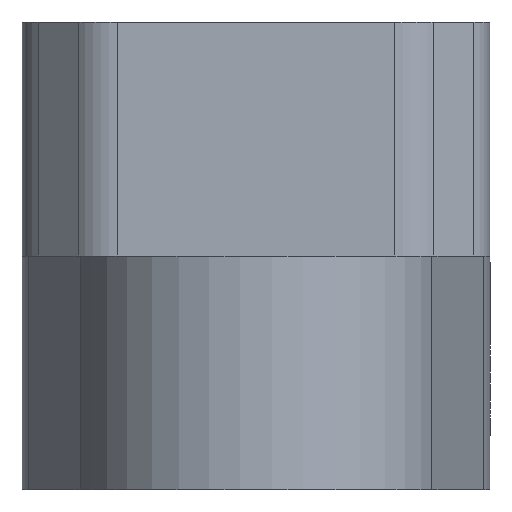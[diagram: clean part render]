
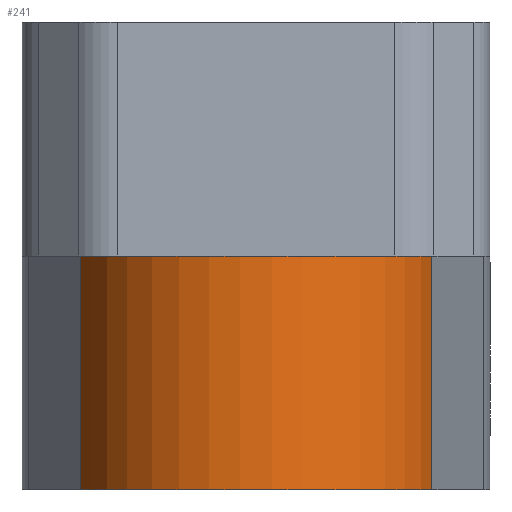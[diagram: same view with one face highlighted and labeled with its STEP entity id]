
A CAD part, left-side view. The second image highlights one B-rep face of the part: STEP entity #241.
In plain terms, the highlighted cylindrical face has radius 10 mm (diameter 20 mm), a partial arc.
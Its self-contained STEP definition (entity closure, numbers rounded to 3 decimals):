
#3 = DIRECTION ( 'NONE',  ( -1., 0., 0. ) ) ;
#21 = VERTEX_POINT ( 'NONE', #1379 ) ;
#72 = LINE ( 'NONE', #1370, #1553 ) ;
#145 = CYLINDRICAL_SURFACE ( 'NONE', #719, 10. ) ;
#146 = DIRECTION ( 'NONE',  ( 0., 0., -1. ) ) ;
#192 = ORIENTED_EDGE ( 'NONE', *, *, #1334, .T. ) ;
#206 = DIRECTION ( 'NONE',  ( 0., 0., -1. ) ) ;
#241 = ADVANCED_FACE ( 'NONE', ( #1387 ), #145, .T. ) ;
#264 = DIRECTION ( 'NONE',  ( 0., 0., 1. ) ) ;
#436 = EDGE_CURVE ( 'NONE', #727, #21, #1542, .T. ) ;
#539 = DIRECTION ( 'NONE',  ( 0., 0., -1. ) ) ;
#699 = EDGE_CURVE ( 'NONE', #21, #1087, #715, .T. ) ;
#715 = LINE ( 'NONE', #1220, #1090 ) ;
#719 = AXIS2_PLACEMENT_3D ( 'NONE', #820, #539, #1040 ) ;
#727 = VERTEX_POINT ( 'NONE', #1273 ) ;
#742 = AXIS2_PLACEMENT_3D ( 'NONE', #923, #146, #3 ) ;
#759 = VERTEX_POINT ( 'NONE', #1422 ) ;
#820 = CARTESIAN_POINT ( 'NONE',  ( 0., 0., 12.85 ) ) ;
#901 = ORIENTED_EDGE ( 'NONE', *, *, #1432, .F. ) ;
#923 = CARTESIAN_POINT ( 'NONE',  ( 0., 0., 0. ) ) ;
#1016 = ORIENTED_EDGE ( 'NONE', *, *, #436, .T. ) ;
#1040 = DIRECTION ( 'NONE',  ( -1., 0., 0. ) ) ;
#1087 = VERTEX_POINT ( 'NONE', #1593 ) ;
#1090 = VECTOR ( 'NONE', #1607, 1000. ) ;
#1209 = EDGE_LOOP ( 'NONE', ( #901, #1016, #1525, #192 ) ) ;
#1220 = CARTESIAN_POINT ( 'NONE',  ( -2.588, 9.659, 12.85 ) ) ;
#1273 = CARTESIAN_POINT ( 'NONE',  ( -2.588, -9.659, 0. ) ) ;
#1334 = EDGE_CURVE ( 'NONE', #1087, #759, #1639, .T. ) ;
#1338 = AXIS2_PLACEMENT_3D ( 'NONE', #1554, #264, #1429 ) ;
#1370 = CARTESIAN_POINT ( 'NONE',  ( -2.588, -9.659, 12.85 ) ) ;
#1379 = CARTESIAN_POINT ( 'NONE',  ( -2.588, 9.659, 0. ) ) ;
#1387 = FACE_OUTER_BOUND ( 'NONE', #1209, .T. ) ;
#1422 = CARTESIAN_POINT ( 'NONE',  ( -2.588, -9.659, -12.85 ) ) ;
#1429 = DIRECTION ( 'NONE',  ( 1., 0., 0. ) ) ;
#1432 = EDGE_CURVE ( 'NONE', #727, #759, #72, .T. ) ;
#1525 = ORIENTED_EDGE ( 'NONE', *, *, #699, .T. ) ;
#1542 = CIRCLE ( 'NONE', #742, 10. ) ;
#1553 = VECTOR ( 'NONE', #206, 1000. ) ;
#1554 = CARTESIAN_POINT ( 'NONE',  ( 0., 0., -12.85 ) ) ;
#1593 = CARTESIAN_POINT ( 'NONE',  ( -2.588, 9.659, -12.85 ) ) ;
#1607 = DIRECTION ( 'NONE',  ( 0., 0., -1. ) ) ;
#1639 = CIRCLE ( 'NONE', #1338, 10. ) ;
